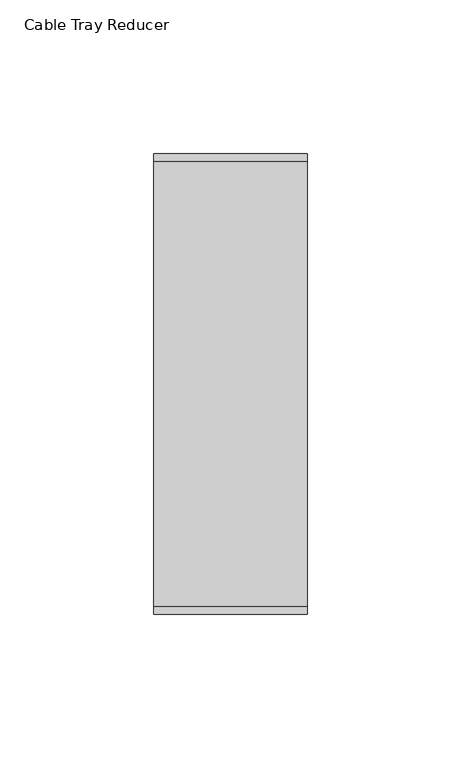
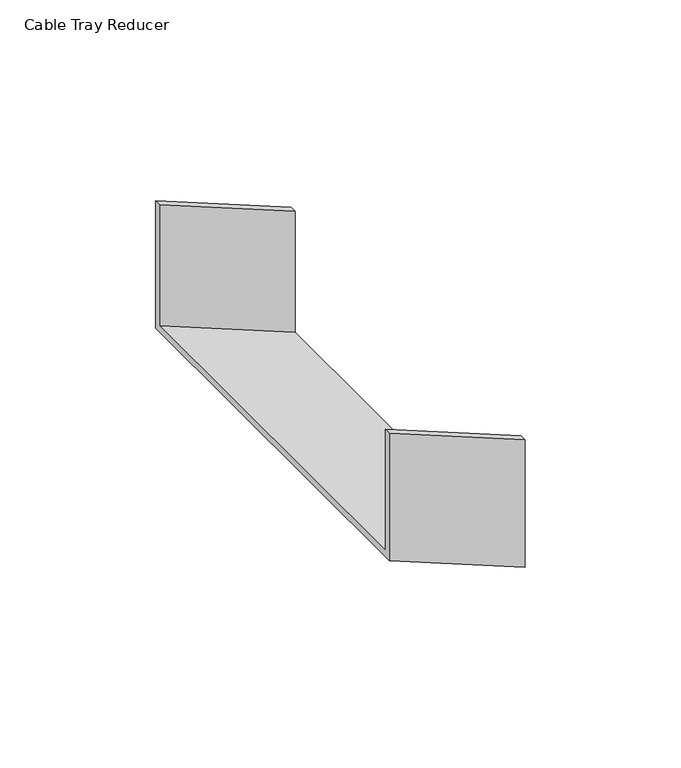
"""IFC4 building model written with IfcOpenShell, lengths in millimetres: cable carrier fitting geometry, Cable Tray Reducer : ELEC_ELV_TKG_N2402."""

from ifc_helpers import new_model, si_unit, origin, place, context, project, spatial, faceted_brep, source, transform, mapped, element, save


def cable_tray_reducer_52994057(model_context):
    return source(origin(), model_context, "Body", "Brep", [
        faceted_brep([(50.0, -75.0, -44.9999959), (50.0, 75.0, -44.9999959), (50.0, 75.0, 5.0000041), (50.0, 72.46, 5.0000041), (50.0, 72.46, -42.4599959), (50.0, -72.46, -42.4599959), (50.0, -72.46, 5.0000041), (50.0, -75.0, 5.0000041), (0.0, -75.0, -25.0), (0.0, -75.0, 25.0), (0.0, -72.46, 25.0), (0.0, -72.46, -22.46), (0.0, 72.46, -22.46), (0.0, 72.46, 25.0), (0.0, 75.0, 25.0), (0.0, 75.0, -25.0)], [[[0, 1, 2, 3, 4, 5, 6, 7]], [[8, 9, 10, 11, 12, 13, 14, 15]], [[8, 15, 1, 0]], [[15, 14, 2, 1]], [[14, 13, 3, 2]], [[13, 12, 4, 3]], [[12, 11, 5, 4]], [[11, 10, 6, 5]], [[10, 9, 7, 6]], [[9, 8, 0, 7]]]),
    ])


if __name__ == "__main__":
    model = new_model("IFC4")
    model_context = context("Model", 3, world=origin())
    ifc_project = project(units=[si_unit("LENGTHUNIT", "METRE", prefix="MILLI")], contexts=[model_context])
    site = spatial("IfcSite", under=ifc_project)
    building = spatial("IfcBuilding", under=site)
    placement = place(None, origin())
    cable_tray_reducer_shape = cable_tray_reducer_52994057(model_context)
    element("IfcCableCarrierFitting", 1, ObjectType="Cable Tray Reducer : ELEC_ELV_TKG_N2402", at=placement, inside=building, context=model_context, shape_type="MappedRepresentation", body=[
        mapped(cable_tray_reducer_shape, transform((0.0, 0.0, 0.0), x_axis=(1.0, 0.0, 0.0), y_axis=(0.0, 1.0, 0.0), z_axis=(0.0, 0.0, 1.0))),
    ])
    save(model, "model.ifc")
